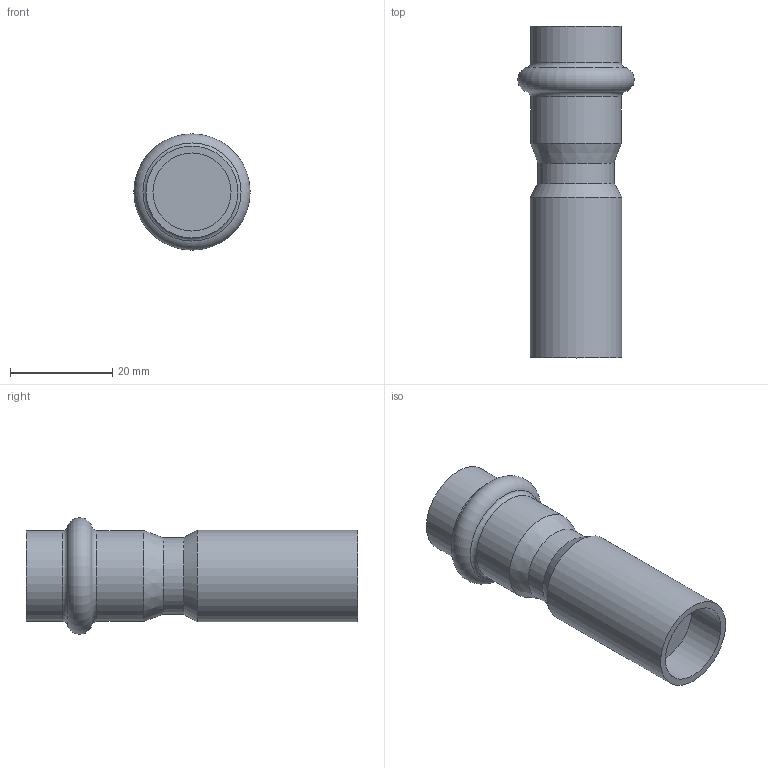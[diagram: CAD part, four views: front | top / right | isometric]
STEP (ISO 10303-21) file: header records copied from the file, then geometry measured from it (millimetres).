
FILE_DESCRIPTION(('STEP AP203'), '1');
FILE_NAME('VTi.905.I.001815', '', ('UNSPECIFIED'), ('UNSPECIFIED'), 'C3D Converter', 'C3D Toolkit', '');
FILE_SCHEMA(('CONFIG_CONTROL_DESIGN'));
Length unit declared in the file: millimetre
Bounding box: 22.78 x 65 x 22.78 mm (x, y, z)
Volume: 13672.2 mm3; surface area: 5061.9 mm2
Topology: 1 solids, 1 shells, 15 faces, 26 edges, 15 vertices
Faces by surface type: cylinder 6, plane 4, torus 3, cone 2
Full cylindrical faces by diameter (mm): 15 x1, 15.3 x2, 17.8 x2, 18 x1
Entity records: 344 total; most frequent: DIRECTION 62, CARTESIAN_POINT 46, AXIS2_PLACEMENT_3D 31, ORIENTED_EDGE 30, EDGE_LOOP 28, FACE_OUTER_BOUND 20, ADVANCED_FACE 15, EDGE_CURVE 15
